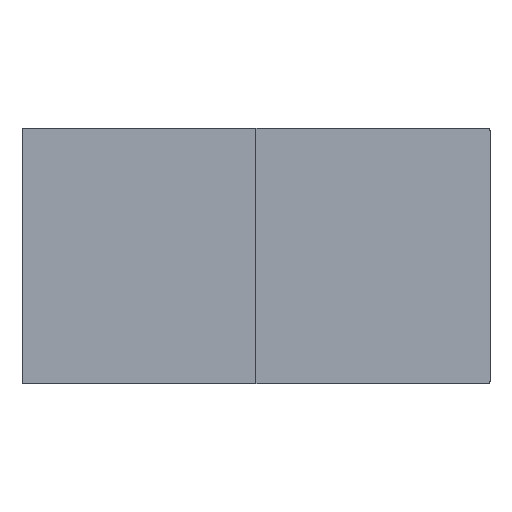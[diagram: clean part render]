
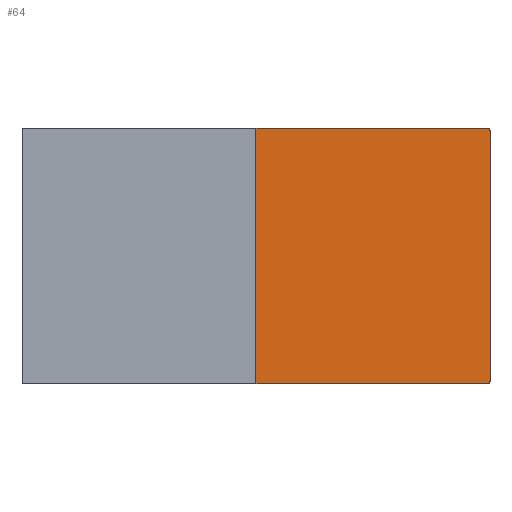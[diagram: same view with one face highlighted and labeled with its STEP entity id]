
A CAD part, top view. The second image highlights one B-rep face of the part: STEP entity #64.
In plain terms, the highlighted planar face has unit normal (0, 0, 1).
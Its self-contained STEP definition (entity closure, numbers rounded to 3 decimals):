
#64=ADVANCED_FACE($,(#514),#5783,.T.);
#514=FACE_OUTER_BOUND($,#964,.T.);
#964=EDGE_LOOP($,(#1444,#1445,#1446,#1447,#1448,#1449));
#1444=ORIENTED_EDGE($,*,*,#3812,.T.);
#1445=ORIENTED_EDGE($,*,*,#3795,.F.);
#1446=ORIENTED_EDGE($,*,*,#3794,.F.);
#1447=ORIENTED_EDGE($,*,*,#3793,.F.);
#1448=ORIENTED_EDGE($,*,*,#3792,.F.);
#1449=ORIENTED_EDGE($,*,*,#3818,.F.);
#3792=EDGE_CURVE($,#4978,#4979,#6714,.T.);
#3793=EDGE_CURVE($,#4979,#4980,#6198,.T.);
#3794=EDGE_CURVE($,#4980,#4981,#6715,.T.);
#3795=EDGE_CURVE($,#4981,#4991,#6199,.T.);
#3812=EDGE_CURVE($,#4990,#4991,#6212,.T.);
#3818=EDGE_CURVE($,#4990,#4978,#6218,.T.);
#4978=VERTEX_POINT($,#8092);
#4979=VERTEX_POINT($,#8093);
#4980=VERTEX_POINT($,#8094);
#4981=VERTEX_POINT($,#8095);
#4990=VERTEX_POINT($,#8104);
#4991=VERTEX_POINT($,#8105);
#5783=PLANE($,#7473);
#6198=B_SPLINE_CURVE_WITH_KNOTS($,1,(#7645,#7646),.UNSPECIFIED.,.F.,.F.,
(2,2),(0.,1180.),.UNSPECIFIED.);
#6199=B_SPLINE_CURVE_WITH_KNOTS($,1,(#7650,#7651),.UNSPECIFIED.,.F.,.F.,
(2,2),(0.,1090.),.UNSPECIFIED.);
#6212=B_SPLINE_CURVE_WITH_KNOTS($,3,(#7696,#7697,#7698,#7699),.UNSPECIFIED.,
.F.,.F.,(4,4),(0.,1200.),.UNSPECIFIED.);
#6218=B_SPLINE_CURVE_WITH_KNOTS($,1,(#7720,#7721),.UNSPECIFIED.,.F.,.F.,
(2,2),(1890.,2980.),.UNSPECIFIED.);
#6714=(
BOUNDED_CURVE()
B_SPLINE_CURVE(2,(#7642,#7643,#7644),.UNSPECIFIED.,.F.,.F.)
B_SPLINE_CURVE_WITH_KNOTS((3,3),(0.,15.708),.UNSPECIFIED.)
CURVE()
GEOMETRIC_REPRESENTATION_ITEM()
RATIONAL_B_SPLINE_CURVE((1.,0.707,1.))
REPRESENTATION_ITEM($)
);
#6715=(
BOUNDED_CURVE()
B_SPLINE_CURVE(2,(#7647,#7648,#7649),.UNSPECIFIED.,.F.,.F.)
B_SPLINE_CURVE_WITH_KNOTS((3,3),(0.,15.708),.UNSPECIFIED.)
CURVE()
GEOMETRIC_REPRESENTATION_ITEM()
RATIONAL_B_SPLINE_CURVE((1.,0.707,1.))
REPRESENTATION_ITEM($)
);
#7473=AXIS2_PLACEMENT_3D($,#7903,#7558,$);
#7558=DIRECTION($,(0.,0.,1.));
#7642=CARTESIAN_POINT($,(1333.547,663.545,510.689));
#7643=CARTESIAN_POINT($,(1343.547,663.545,510.689));
#7644=CARTESIAN_POINT($,(1343.547,653.545,510.689));
#7645=CARTESIAN_POINT($,(1343.547,653.545,510.689));
#7646=CARTESIAN_POINT($,(1343.547,-526.455,510.689));
#7647=CARTESIAN_POINT($,(1343.547,-526.455,510.689));
#7648=CARTESIAN_POINT($,(1343.547,-536.455,510.689));
#7649=CARTESIAN_POINT($,(1333.547,-536.455,510.689));
#7650=CARTESIAN_POINT($,(1333.547,-536.455,510.689));
#7651=CARTESIAN_POINT($,(243.547,-536.455,510.689));
#7696=CARTESIAN_POINT($,(243.547,663.545,510.689));
#7697=CARTESIAN_POINT($,(243.547,263.545,510.689));
#7698=CARTESIAN_POINT($,(243.547,-136.455,510.689));
#7699=CARTESIAN_POINT($,(243.547,-536.455,510.689));
#7720=CARTESIAN_POINT($,(243.547,663.545,510.689));
#7721=CARTESIAN_POINT($,(1333.547,663.545,510.689));
#7903=CARTESIAN_POINT($,(1343.547,-536.455,510.689));
#8092=CARTESIAN_POINT($,(1333.547,663.545,510.689));
#8093=CARTESIAN_POINT($,(1343.547,653.545,510.689));
#8094=CARTESIAN_POINT($,(1343.547,-526.455,510.689));
#8095=CARTESIAN_POINT($,(1333.547,-536.455,510.689));
#8104=CARTESIAN_POINT($,(243.547,663.545,510.689));
#8105=CARTESIAN_POINT($,(243.547,-536.455,510.689));
